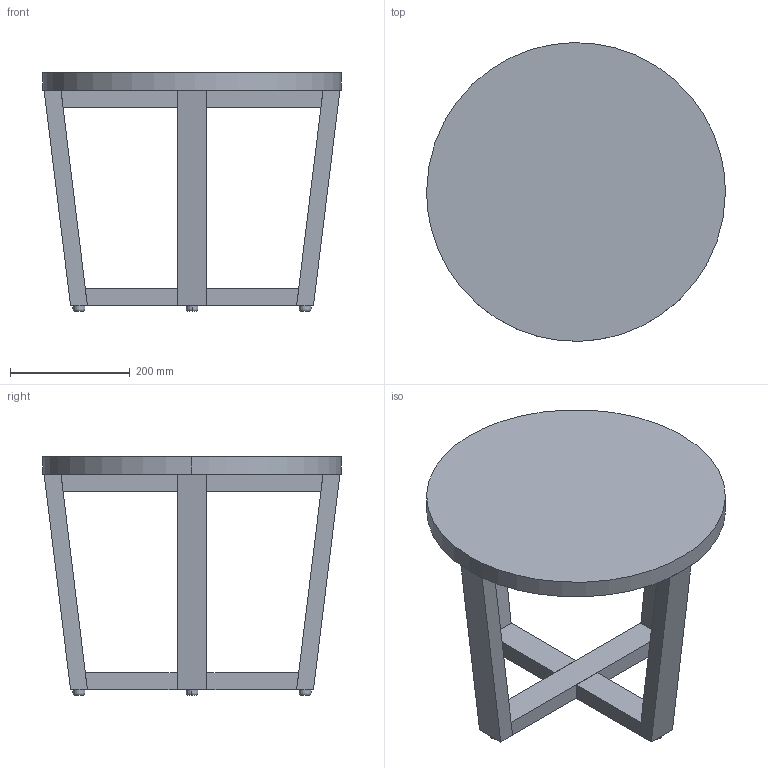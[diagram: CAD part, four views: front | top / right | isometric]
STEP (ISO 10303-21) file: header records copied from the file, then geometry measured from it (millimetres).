
FILE_DESCRIPTION(/* description */ (''),/* implementation_level */ '2;1');
FILE_NAME(/* name */ 'KINOSH~1',/* time_stamp */ '2019-07-24T09:40:18+09:00',/* author */ (''),/* organization */ (''),/* preprocessor_version */ 'ST-DEVELOPER v15',/* originating_system */ '',/* authorisation */ '');
FILE_SCHEMA (('AUTOMOTIVE_DESIGN'));
Length unit declared in the file: millimetre
Products named in the file (1): Document
Bounding box: 500 x 499.89 x 400 mm (x, y, z)
Volume: 20004134.4 mm3; surface area: 1856034.4 mm2
Topology: 22 solids, 30 shells, 144 faces, 300 edges, 192 vertices
Faces by surface type: plane 124, bspline 20
Entity records: 3828 total; most frequent: CARTESIAN_POINT 1639, ORIENTED_EDGE 552, EDGE_CURVE 284, B_SPLINE_CURVE_WITH_KNOTS 240, VERTEX_POINT 192, ADVANCED_FACE 144, FACE_OUTER_BOUND 144, EDGE_LOOP 144
